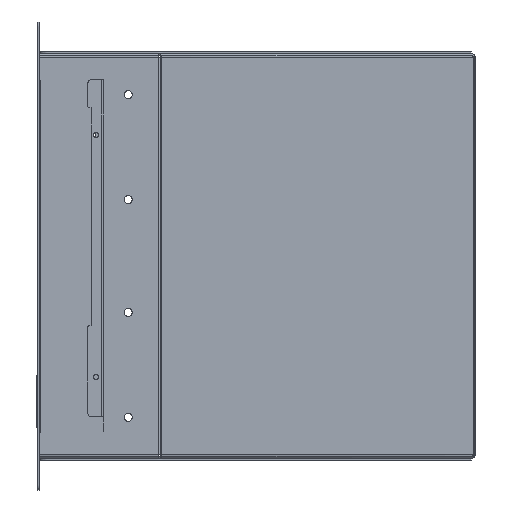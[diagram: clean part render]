
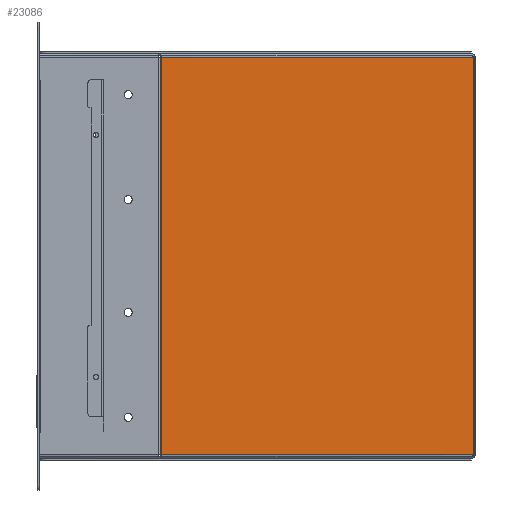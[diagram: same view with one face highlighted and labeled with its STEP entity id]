
A CAD part, left-side view. The second image highlights one B-rep face of the part: STEP entity #23086.
In plain terms, the highlighted planar face has unit normal (-0.643, -0.766, 0) as drawn and (-0.643, 0.766, 0) by its records, which use the part's own axes.
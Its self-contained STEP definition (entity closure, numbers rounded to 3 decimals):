
#208 = LINE ( 'NONE', #35702, #18012 ) ;
#1257 = VERTEX_POINT ( 'NONE', #13328 ) ;
#1537 = ORIENTED_EDGE ( 'NONE', *, *, #26560, .T. ) ;
#2652 = FACE_OUTER_BOUND ( 'NONE', #19765, .T. ) ;
#2852 = VERTEX_POINT ( 'NONE', #2881 ) ;
#2881 = CARTESIAN_POINT ( 'NONE',  ( -197.749, 269.462, -123.2 ) ) ;
#4807 = VERTEX_POINT ( 'NONE', #14768 ) ;
#6592 = DIRECTION ( 'NONE',  ( -0.766, -0.643, 0. ) ) ;
#8252 = VERTEX_POINT ( 'NONE', #16050 ) ;
#8288 = DIRECTION ( 'NONE',  ( 0., 0., -1. ) ) ;
#8771 = DIRECTION ( 'NONE',  ( 0., 0., -1. ) ) ;
#11385 = CARTESIAN_POINT ( 'NONE',  ( -428.678, 75.689, 123.2 ) ) ;
#13328 = CARTESIAN_POINT ( 'NONE',  ( -428.678, 75.689, -123.2 ) ) ;
#13925 = AXIS2_PLACEMENT_3D ( 'NONE', #33457, #27174, #6592 ) ;
#14768 = CARTESIAN_POINT ( 'NONE',  ( -197.749, 269.462, 123.2 ) ) ;
#16050 = CARTESIAN_POINT ( 'NONE',  ( -428.678, 75.689, 123.2 ) ) ;
#16754 = EDGE_CURVE ( 'NONE', #2852, #1257, #208, .T. ) ;
#17705 = ORIENTED_EDGE ( 'NONE', *, *, #38023, .F. ) ;
#18012 = VECTOR ( 'NONE', #20805, 1000. ) ;
#19765 = EDGE_LOOP ( 'NONE', ( #26411, #30901, #17705, #1537 ) ) ;
#20805 = DIRECTION ( 'NONE',  ( -0.766, -0.643, 0. ) ) ;
#21504 = PLANE ( 'NONE',  #13925 ) ;
#23086 = ADVANCED_FACE ( 'NONE', ( #2652 ), #21504, .T. ) ;
#23357 = DIRECTION ( 'NONE',  ( 0.766, 0.643, 0. ) ) ;
#23491 = CARTESIAN_POINT ( 'NONE',  ( -428.678, 75.689, 125.5 ) ) ;
#23837 = VECTOR ( 'NONE', #8288, 1000. ) ;
#23980 = LINE ( 'NONE', #32997, #23837 ) ;
#25067 = VECTOR ( 'NONE', #8771, 1000. ) ;
#25844 = LINE ( 'NONE', #23491, #25067 ) ;
#26411 = ORIENTED_EDGE ( 'NONE', *, *, #37218, .T. ) ;
#26560 = EDGE_CURVE ( 'NONE', #8252, #4807, #38454, .T. ) ;
#27174 = DIRECTION ( 'NONE',  ( -0.643, 0.766, 0. ) ) ;
#30901 = ORIENTED_EDGE ( 'NONE', *, *, #16754, .T. ) ;
#32997 = CARTESIAN_POINT ( 'NONE',  ( -197.749, 269.462, 125.5 ) ) ;
#33457 = CARTESIAN_POINT ( 'NONE',  ( -429.5, 75., 125.5 ) ) ;
#35702 = CARTESIAN_POINT ( 'NONE',  ( -197.749, 269.462, -123.2 ) ) ;
#35790 = VECTOR ( 'NONE', #23357, 1000. ) ;
#37218 = EDGE_CURVE ( 'NONE', #4807, #2852, #23980, .T. ) ;
#38023 = EDGE_CURVE ( 'NONE', #8252, #1257, #25844, .T. ) ;
#38454 = LINE ( 'NONE', #11385, #35790 ) ;
